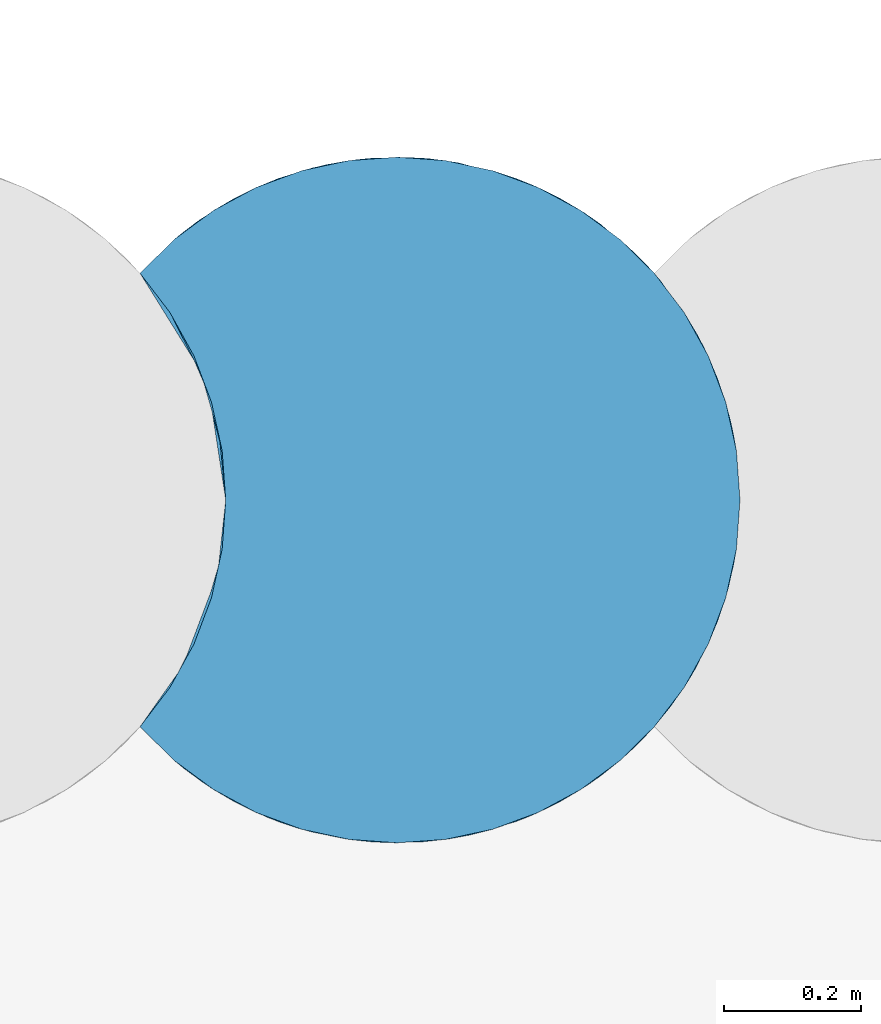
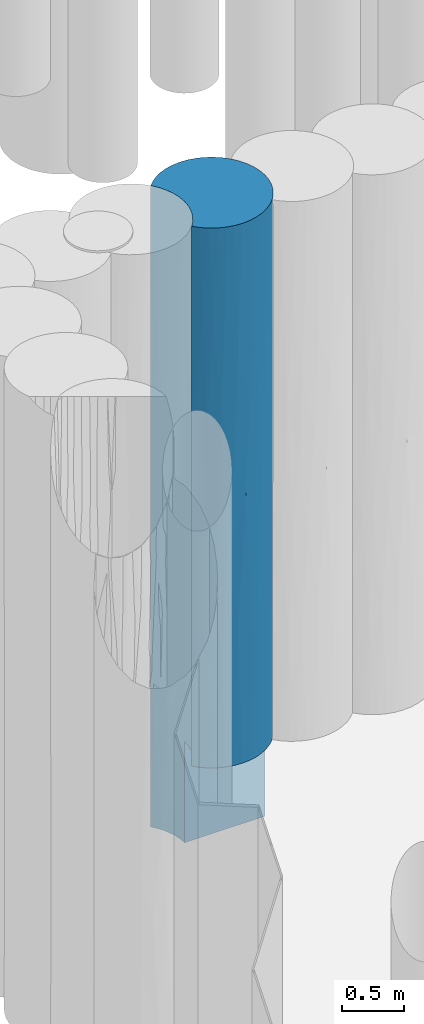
# One storey, part 82 of 104: 1 pile.
"""IFC2X3 building model written with IfcOpenShell, lengths in millimetres."""

import ifcopenshell
import ifcopenshell.guid

model = None  # the IFC model being written
_history = None  # IfcOwnerHistory: only IFC2X3 demands one
_inside = {}  # id of a spatial element -> (the spatial element, [elements in it])
_under = {}  # id of a project, library or spatial element -> (it, [spatial elements below it])
_declared = {}  # id of a project -> (the project, [libraries it declares])
_typed = {}  # id of a type object -> (the type object, [elements of that type])
_made_of = {}  # id of a material, layer set ... -> (it, [elements and type objects made of it])


def new_model(schema):
    """Start an empty IFC model of exactly this schema.

    Asked for "IFC4X3", IfcOpenShell would pick the latest addendum, in which some entities
    have other attributes; the version numbers below select the first issue.
    IFC2X3 requires an IfcOwnerHistory on every rooted entity: one is made here for all.
    """
    global model, _history
    if schema == "IFC4X3":
        model = ifcopenshell.file(schema_version=(4, 3, 0, 0))
    else:
        model = ifcopenshell.file(schema=schema)
    _inside.clear()
    _under.clear()
    _declared.clear()
    _typed.clear()
    _made_of.clear()
    _history = None
    if model.schema == "IFC2X3":
        org = make("IfcOrganization", Name="unknown")
        user = make(
            "IfcPersonAndOrganization",
            ThePerson=make("IfcPerson", FamilyName="unknown"),
            TheOrganization=org,
        )
        app = make(
            "IfcApplication",
            ApplicationDeveloper=org,
            Version="unknown",
            ApplicationFullName="unknown",
            ApplicationIdentifier="unknown",
        )
        _history = make(
            "IfcOwnerHistory",
            OwningUser=user,
            OwningApplication=app,
            ChangeAction="ADDED",
            CreationDate=0,
        )
    return model


def make(cls, **values):
    """One entity of the class cls with the attributes given. An attribute that is None is left unset."""
    return model.create_entity(
        cls, **{name: value for name, value in values.items() if value is not None}
    )


def entity(cls, *values):
    """Any entity or typed value of the class cls, its attributes in the order of the schema. None: left unset."""
    e = model.create_entity(cls)
    for i, value in enumerate(values):
        if value is not None:
            e[i] = value
    return e


def rooted(cls, **values):
    """An entity with a GlobalId (a new one), such as an element, a storey or a relation."""
    return make(cls, GlobalId=ifcopenshell.guid.new(), OwnerHistory=_history, **values)


def si_unit(unit_type, name, prefix=None):
    """IfcSIUnit, for example si_unit("LENGTHUNIT", "METRE", prefix="MILLI")."""
    return make("IfcSIUnit", UnitType=unit_type, Prefix=prefix, Name=name)


def converted_unit(unit_type, name, factor, base, dimensions=None, offset=None):
    """IfcConversionBasedUnit, such as the inch: factor (a typed value) times the base unit."""
    return make(
        "IfcConversionBasedUnit"
        if offset is None
        else "IfcConversionBasedUnitWithOffset",
        ConversionOffset=offset,
        Dimensions=None
        if dimensions is None
        else entity("IfcDimensionalExponents", *dimensions),
        UnitType=unit_type,
        Name=name,
        ConversionFactor=make(
            "IfcMeasureWithUnit", ValueComponent=factor, UnitComponent=base
        ),
    )


def derived_unit(unit_type, elements):
    """IfcDerivedUnit: a product of units, each with its exponent."""
    return make(
        "IfcDerivedUnit",
        Elements=[
            make("IfcDerivedUnitElement", Unit=unit, Exponent=power)
            for unit, power in elements
        ],
        UnitType=unit_type,
    )


def assignment(units):
    """IfcUnitAssignment: the units of a project."""
    return None if units is None else make("IfcUnitAssignment", Units=units)


def point(xyz):
    """IfcCartesianPoint."""
    return None if xyz is None else make("IfcCartesianPoint", Coordinates=xyz)


def direction(xyz):
    """IfcDirection."""
    return None if xyz is None else make("IfcDirection", DirectionRatios=xyz)


def frame(location, z_axis=None, x_axis=None):
    """IfcAxis2Placement3D, a coordinate frame: its origin and axes. An axis left out is left unset."""
    return make(
        "IfcAxis2Placement3D",
        Location=point(location),
        Axis=direction(z_axis),
        RefDirection=direction(x_axis),
    )


def origin():
    """The frame at (0, 0, 0) with its axes left unset."""
    return frame((0.0, 0.0, 0.0))


def place(relative_to, where):
    """IfcLocalPlacement: puts the frame where relative to a parent placement (None: the world)."""
    return make(
        "IfcLocalPlacement", PlacementRelTo=relative_to, RelativePlacement=where
    )


def context(
    kind, dimensions, precision=None, world=None, true_north=None, identifier=None
):
    """IfcGeometricRepresentationContext, for example the 3D "Model" context."""
    return make(
        "IfcGeometricRepresentationContext",
        ContextIdentifier=identifier,
        ContextType=kind,
        CoordinateSpaceDimension=dimensions,
        Precision=precision,
        WorldCoordinateSystem=world,
        TrueNorth=true_north,
    )


def subcontext(parent, identifier, kind, view, scale=None):
    """IfcGeometricRepresentationSubContext, for example "Body" below "Model"."""
    return make(
        "IfcGeometricRepresentationSubContext",
        ContextIdentifier=identifier,
        ContextType=kind,
        ParentContext=parent,
        TargetScale=scale,
        TargetView=view,
    )


def project(units=None, contexts=None):
    """IfcProject with its units and contexts."""
    return rooted(
        "IfcProject",
        Name="project",
        RepresentationContexts=contexts,
        UnitsInContext=assignment(units),
    )


def spatial(cls, under=None, at=None, **own):
    """A site, building, storey or space (cls), placed at a placement, below another one or the project."""
    s = rooted(cls, ObjectPlacement=at, **own)
    if under is not None:
        _under.setdefault(under.id(), (under, []))[1].append(s)
    return s


def faces_of(points, faces, orient=None, outer=None):
    """IfcFace entities. A face is a list of loops; a loop is a list of indices into points, from 0.

    orient and outer hold one flag for each loop. By default every Orientation is true, the
    first loop of a face is its IfcFaceOuterBound and the others are IfcFaceBound.
    """
    made = []
    for i, loops in enumerate(faces):
        bounds = []
        for j, loop in enumerate(loops):
            is_outer = j == 0 if outer is None else outer[i][j]
            bounds.append(
                make(
                    "IfcFaceOuterBound" if is_outer else "IfcFaceBound",
                    Bound=make("IfcPolyLoop", Polygon=[points[k] for k in loop]),
                    Orientation=True if orient is None else orient[i][j],
                )
            )
        made.append(make("IfcFace", Bounds=bounds))
    return made


def faceted_brep(points, faces, orient=None, outer=None, voids=None):
    """IfcFacetedBrep: a solid bounded by flat faces; with voids (closed shells), ...WithVoids."""
    shared = [point(p) for p in points]
    hull = make("IfcClosedShell", CfsFaces=faces_of(shared, faces, orient, outer))
    if voids is None:
        return make("IfcFacetedBrep", Outer=hull)
    return make(
        "IfcFacetedBrepWithVoids",
        Outer=hull,
        Voids=[
            make(cls, CfsFaces=faces_of(shared, fs, o, b)) for cls, fs, o, b in voids
        ],
    )


def shape(context_of_items, identifier, shape_type, items):
    """IfcShapeRepresentation: the items that make up one representation, for example the "Body"."""
    return make(
        "IfcShapeRepresentation",
        ContextOfItems=context_of_items,
        RepresentationIdentifier=identifier,
        RepresentationType=shape_type,
        Items=items,
    )


def source(mapping_origin, context_of_items, identifier, shape_type, items):
    """IfcRepresentationMap: a shape defined once, which mapped items show again and again."""
    return make(
        "IfcRepresentationMap",
        MappingOrigin=mapping_origin,
        MappedRepresentation=shape(context_of_items, identifier, shape_type, items),
    )


def transform(
    local_origin,
    x_axis=None,
    y_axis=None,
    z_axis=None,
    scale=None,
    scale2=None,
    scale3=None,
    uniform=True,
):
    """IfcCartesianTransformationOperator3D, or its non-uniform kind. x_axis, y_axis, z_axis: its Axis1, 2, 3."""
    if uniform:
        return make(
            "IfcCartesianTransformationOperator3D",
            Axis1=direction(x_axis),
            Axis2=direction(y_axis),
            LocalOrigin=point(local_origin),
            Scale=scale,
            Axis3=direction(z_axis),
        )
    return make(
        "IfcCartesianTransformationOperator3DnonUniform",
        Axis1=direction(x_axis),
        Axis2=direction(y_axis),
        LocalOrigin=point(local_origin),
        Scale=scale,
        Axis3=direction(z_axis),
        Scale2=scale2,
        Scale3=scale3,
    )


def mapped(mapping_source, mapping_target):
    """IfcMappedItem: shows the shape of a source again, moved by a transform."""
    return make(
        "IfcMappedItem", MappingSource=mapping_source, MappingTarget=mapping_target
    )


def material(Name=None, Category=None):
    """IfcMaterial."""
    return make("IfcMaterial", Name=Name, Category=Category)


def made_of(thing, what):
    """Note that an element or type object is made of a material, layer set ...; save() writes the relation."""
    if what is not None:
        _made_of.setdefault(what.id(), (what, []))[1].append(thing)
    return thing


def element(
    cls,
    number,
    at=None,
    inside=None,
    cuts=None,
    type_object=None,
    material=None,
    context=None,
    identifier="Body",
    shape_type=None,
    held_by="IfcProductDefinitionShape",
    body=None,
    shapes=None,
    **own,
):
    """One element of the class cls, such as IfcWall. Its Tag is "e" and its number.

    at: its placement. inside: the storey or other place that contains it. cuts: it is an
    opening in that element (IfcRelVoidsElement). A single representation is given by context,
    identifier, shape_type and body (its items); several are given by shapes. held_by: the class
    of the entity that holds the representations. save() writes the other relations.
    """
    e = rooted(cls, Tag="e%d" % number, ObjectPlacement=at, **own)
    if body is not None:
        shapes = [shape(context, identifier, shape_type, body)]
    if shapes is not None:
        e.Representation = make(held_by, Representations=shapes)
    if inside is not None:
        _inside.setdefault(inside.id(), (inside, []))[1].append(e)
    if cuts is not None:
        rooted(
            "IfcRelVoidsElement", RelatingBuildingElement=cuts, RelatedOpeningElement=e
        )
    if type_object is not None:
        _typed.setdefault(type_object.id(), (type_object, []))[1].append(e)
    return made_of(e, material)


def aggregate(whole, parts):
    """IfcRelAggregates: a whole, such as a stair, and the parts it consists of."""
    return rooted("IfcRelAggregates", RelatingObject=whole, RelatedObjects=parts)


def save(model, path):
    """Write the relations noted so far, then the file.

    IfcRelAggregates (storeys below a building ...), IfcRelContainedInSpatialStructure (elements
    in a storey), IfcRelDefinesByType, IfcRelAssociatesMaterial and IfcRelDeclares: one each for
    every whole, place, type object, material and project.
    """
    for whole, parts in _under.values():
        aggregate(whole, parts)
    for where, things in _inside.values():
        rooted(
            "IfcRelContainedInSpatialStructure",
            RelatedElements=things,
            RelatingStructure=where,
        )
    for kind, things in _typed.values():
        rooted("IfcRelDefinesByType", RelatedObjects=things, RelatingType=kind)
    for what, things in _made_of.values():
        rooted("IfcRelAssociatesMaterial", RelatedObjects=things, RelatingMaterial=what)
    for by, libraries in _declared.values():
        rooted("IfcRelDeclares", RelatingContext=by, RelatedDefinitions=libraries)
    model.write(path)


model = new_model("IFC2X3")

# Units and contexts
model_context = context("Model", 3, precision=0.01, world=origin(), true_north=direction((6.12303176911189e-17, 1.0)))
body_context = subcontext(model_context, "Body", "Model", "MODEL_VIEW")
ifc_project = project(units=[si_unit("LENGTHUNIT", "METRE", prefix="MILLI"), si_unit("AREAUNIT", "SQUARE_METRE", prefix="MILLI"), si_unit("VOLUMEUNIT", "CUBIC_METRE"), converted_unit("PLANEANGLEUNIT", "DEGREE", entity("IfcRatioMeasure", 0.0174532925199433), si_unit("PLANEANGLEUNIT", "RADIAN"), dimensions=[0, 0, 0, 0, 0, 0, 0]), si_unit("MASSUNIT", "GRAM", prefix="KILO"), derived_unit("MASSDENSITYUNIT", [(si_unit("MASSUNIT", "GRAM", prefix="KILO"), 1), (si_unit("LENGTHUNIT", "METRE"), -3)]), derived_unit("MOMENTOFINERTIAUNIT", [(si_unit("LENGTHUNIT", "METRE"), 4)]), si_unit("TIMEUNIT", "SECOND"), si_unit("FREQUENCYUNIT", "HERTZ"), si_unit("THERMODYNAMICTEMPERATUREUNIT", "DEGREE_CELSIUS"), derived_unit("THERMALTRANSMITTANCEUNIT", [(si_unit("MASSUNIT", "GRAM", prefix="KILO"), 1), (si_unit("THERMODYNAMICTEMPERATUREUNIT", "KELVIN"), -1), (si_unit("TIMEUNIT", "SECOND"), -3)]), derived_unit("VOLUMETRICFLOWRATEUNIT", [(si_unit("LENGTHUNIT", "METRE"), 3), (si_unit("TIMEUNIT", "SECOND"), -1)]), si_unit("ELECTRICCURRENTUNIT", "AMPERE"), si_unit("ELECTRICVOLTAGEUNIT", "VOLT"), si_unit("POWERUNIT", "WATT"), si_unit("FORCEUNIT", "NEWTON", prefix="KILO"), si_unit("ILLUMINANCEUNIT", "LUX"), si_unit("LUMINOUSFLUXUNIT", "LUMEN"), si_unit("LUMINOUSINTENSITYUNIT", "CANDELA"), derived_unit("USERDEFINED", [(si_unit("MASSUNIT", "GRAM", prefix="KILO"), -1), (si_unit("LENGTHUNIT", "METRE"), -2), (si_unit("TIMEUNIT", "SECOND"), 3), (si_unit("LUMINOUSFLUXUNIT", "LUMEN"), 1)]), derived_unit("LINEARVELOCITYUNIT", [(si_unit("LENGTHUNIT", "METRE"), 1), (si_unit("TIMEUNIT", "SECOND"), -1)]), si_unit("PRESSUREUNIT", "PASCAL"), derived_unit("USERDEFINED", [(si_unit("LENGTHUNIT", "METRE"), -2), (si_unit("MASSUNIT", "GRAM", prefix="KILO"), 1), (si_unit("TIMEUNIT", "SECOND"), -2)]), derived_unit("LINEARFORCEUNIT", [(si_unit("MASSUNIT", "GRAM", prefix="KILO"), 1), (si_unit("LENGTHUNIT", "METRE"), 1), (si_unit("TIMEUNIT", "SECOND"), -2), (si_unit("LENGTHUNIT", "METRE"), -1)]), derived_unit("PLANARFORCEUNIT", [(si_unit("MASSUNIT", "GRAM", prefix="KILO"), 1), (si_unit("LENGTHUNIT", "METRE"), 1), (si_unit("TIMEUNIT", "SECOND"), -2), (si_unit("LENGTHUNIT", "METRE"), -2)])], contexts=[model_context])

# Site, building, storey
site_placement = place(None, origin())
site = spatial("IfcSite", under=ifc_project, at=site_placement, Name="Theater aan de Parade", CompositionType="ELEMENT")
building_placement = place(site_placement, origin())
building = spatial("IfcBuilding", under=site, at=building_placement, Name="Theater aan de Parade", CompositionType="ELEMENT")
storey_placement = place(building_placement, frame((0.0, 0.0, -5520.0)))
storey = spatial("IfcBuildingStorey", under=building, at=storey_placement, Name="-2 kelder", CompositionType="ELEMENT", Elevation=-5520.0)

# Pile
ifc_material = material(Name="00_PBT_MAT_grout")
shared_shape = source(origin(), body_context, "Body", "Brep", [
    faceted_brep([(447.024567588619, 996.610134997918, 0.0), (516.050365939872, 981.753867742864, 0.0), (582.295809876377, 957.322481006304, 0.0), (644.440261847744, 923.802640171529, 0.0), (701.244632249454, 881.862011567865, 0.0), (751.564698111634, 832.344511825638, 0.0), (795.307447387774, 774.871898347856, 0.0), (830.3061049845, 711.705910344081, 0.0), (855.841245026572, 644.155075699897, 0.0), (871.379164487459, 573.629291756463, 0.0), (876.595272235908, 501.595272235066, 0.0), (126.595272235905, 501.595272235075, 0.0), (121.380912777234, 573.617282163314, 0.0), (105.846592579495, 644.137097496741, 0.0), (80.3163177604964, 711.683855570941, 0.0), (45.3225844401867, 774.848704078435, 0.0), (1.59527223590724, 832.314186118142, 0.0), (51.9353252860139, 881.852972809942, 0.0), (108.741467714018, 923.797047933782, 0.0), (170.888616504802, 957.319719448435, 0.0), (237.136331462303, 981.75275040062, 0.0), (306.163620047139, 996.609799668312, 0.0), (376.594352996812, 1001.59527223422, 0.0), (794.756123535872, 775.714776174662, 1228.81272915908), (549.604882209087, 970.708984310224, 4489.81932615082), (520.051793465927, 980.573587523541, 5382.91341902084), (613.960467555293, 941.660908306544, 5318.51941458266), (876.595272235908, 501.595272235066, 1000.0), (871.379164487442, 573.629291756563, 6320.0), (876.595272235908, 501.59527223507, 6320.0), (876.595272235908, 501.595272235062, 5539.2311470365), (876.595272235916, 501.59527223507, 4758.46227378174), (520.051793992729, 980.573587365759, 937.086578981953), (844.294832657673, 678.392108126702, 1164.3633246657), (271.387390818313, 990.401268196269, 1001.48399115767), (613.960468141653, 941.660907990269, 1001.48058281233), (465.503122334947, 993.627175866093, 3572.95728768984), (591.95749686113, 952.837016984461, 2592.25031757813), (425.191522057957, 999.228073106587, 2413.69991540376), (51.9353254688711, 881.85297296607, 6320.0), (108.741467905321, 923.797048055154, 6320.0), (62.3331531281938, 890.490271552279, 5148.84671821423), (727.290636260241, 857.983770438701, 1464.86322289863), (813.948631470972, 743.92157944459, 2176.75510940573), (411.897565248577, 1000.34746331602, 1347.03164863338), (170.419670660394, 957.107754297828, 3160.0), (89.8360826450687, 911.191618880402, 2088.29114741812), (79.5245862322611, 903.775589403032, 3056.90562258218), (844.294831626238, 678.39211085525, 4334.71686722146), (813.948631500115, 743.921579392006, 5244.04250825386), (856.701469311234, 641.230652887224, 5294.90075363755), (317.324708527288, 998.069843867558, 2005.67899400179), (139.222527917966, 941.65683639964, 5318.51289021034), (271.387391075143, 990.401268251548, 5318.5160089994), (203.580632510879, 970.707129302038, 4489.8213672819), (855.841245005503, 644.155075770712, 6320.0), (830.306104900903, 711.705910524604, 6320.0), (411.897565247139, 1000.34746331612, 4972.96835150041), (376.594352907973, 1001.59527223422, 6320.0), (447.024567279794, 996.610135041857, 6320.0), (876.595272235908, 501.595272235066, 2098.46227378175), (869.333230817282, 586.502893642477, 1549.23112851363), (646.439422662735, 922.52773057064, 4378.31323819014), (861.144910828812, 624.930781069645, 2647.6933898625), (139.222527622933, 941.656836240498, 1001.48711016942), (795.307447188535, 774.871898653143, 6320.0), (576.321270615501, 959.972328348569, 3449.19162586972), (751.585178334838, 832.325631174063, 6320.0), (727.290636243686, 857.983770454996, 5537.32646657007), (701.244631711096, 881.862012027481, 6320.0), (203.580632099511, 970.707129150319, 1830.17863376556), (644.44026119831, 923.80264058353, 6320.0), (341.290873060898, 1000.34731423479, 3160.0), (253.934917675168, 986.316261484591, 2717.65300360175), (650.019734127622, 920.21092368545, 1972.39054739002), (549.604882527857, 970.70898419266, 1830.18066998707), (62.3331529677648, 890.490271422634, 1171.15328050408), (876.595272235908, 501.595272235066, 3196.92454756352), (876.595272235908, 501.595272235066, 2561.5377059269), (793.00101597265, 778.373625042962, 4276.18344993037), (864.687323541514, 610.067155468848, 3612.80310461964), (727.290635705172, 857.983770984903, 4689.9541594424), (1.59527223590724, 832.314186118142, 5539.23141195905), (1.59527223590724, 832.314186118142, 4758.45763153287), (1.59527223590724, 832.314186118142, 780.768588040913), (1.59527223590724, 832.314186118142, 1561.53717608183), (582.295809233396, 957.32248129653, 6320.0), (516.050365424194, 981.753867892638, 6320.0), (1.59527223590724, 832.314186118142, 6320.0), (170.888616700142, 957.319719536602, 6320.0), (760.967406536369, 821.373417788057, 2912.00306888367), (306.163620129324, 996.609799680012, 6320.0), (237.136331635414, 981.752750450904, 6320.0), (317.324708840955, 998.069843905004, 4314.32100595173), (824.270181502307, 724.277053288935, 3295.17429052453), (740.362063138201, 844.631308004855, 3786.33735840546), (89.8360828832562, 911.191619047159, 4231.70885066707), (1.5952722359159, 832.314186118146, 2342.30657834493), (1.59527223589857, 832.314186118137, 3123.07435216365), (1.59527223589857, 832.314186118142, 3940.76599184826), (1.59527223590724, 832.314186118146, 4721.53800578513), (868.31868141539, 592.193775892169, 4573.56444361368), (673.583725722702, 903.836317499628, 3160.0), (876.595272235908, 501.595272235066, 4123.07541185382), (1.5952722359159, 832.314186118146, 3922.30672178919), (203.582286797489, 32.4828050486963, 2063.74645387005), (104.799222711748, 81.9205083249, 2017.24056259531), (170.888936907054, 45.8706803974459, 1000.0), (306.169463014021, 6.57991348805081, 1000.0), (237.139379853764, 21.4369086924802, 1000.0), (108.739323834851, 79.3948566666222, 1000.0), (844.298622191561, 324.808461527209, 1964.84509720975), (855.843884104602, 359.044340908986, 1000.0), (871.380005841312, 429.567032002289, 1000.0), (51.9315440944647, 121.340800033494, 1000.0), (249.149636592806, 18.1104121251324, 3064.60351294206), (341.298032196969, 2.84272352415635, 2389.43952600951), (481.811471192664, 12.7910665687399, 1910.77219920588), (447.035194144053, 6.58192150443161, 1000.0), (516.062532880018, 21.4402106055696, 1000.0), (795.307447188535, 228.318645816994, 6320.0), (804.969430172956, 243.727901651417, 5501.66350533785), (830.306104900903, 291.484633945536, 6320.0), (376.602802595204, 1.59527229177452, 1000.0), (727.301618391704, 145.217581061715, 3659.99144225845), (673.596082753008, 99.363350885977, 2270.79748972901), (774.493590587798, 198.813290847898, 2390.35009709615), (481.80003106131, 12.7886041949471, 5409.25641590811), (453.100427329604, 7.48297604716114, 4513.69340896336), (549.604883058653, 32.4815604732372, 4692.84905904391), (226.910865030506, 24.5265368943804, 5446.00106667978), (237.136331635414, 21.4377940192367, 6320.0), (170.888616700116, 45.8708249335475, 6320.0), (203.580632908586, 32.4834150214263, 4596.17974534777), (186.509828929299, 39.1371398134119, 3719.1308989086), (302.739707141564, 7.07999895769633, 3999.49399943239), (567.354968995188, 39.4148549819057, 1816.1274248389), (549.617476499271, 32.4862051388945, 2627.20563650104), (582.308728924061, 45.8738949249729, 1000.0), (613.960468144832, 61.5296364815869, 5409.25483365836), (139.222528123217, 61.5337079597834, 5366.36140196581), (94.9848091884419, 88.4420959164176, 4306.20718492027), (66.1639001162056, 109.635627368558, 5518.62855545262), (1.59527223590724, 170.876358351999, 3342.30506081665), (1.5952722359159, 170.876358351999, 4123.07341442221), (701.244631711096, 121.328532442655, 6320.0), (727.290636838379, 145.206774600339, 5009.81933080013), (751.585178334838, 170.864913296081, 6320.0), (51.9353254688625, 121.337571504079, 6320.0), (1.59527223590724, 170.876358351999, 6320.0), (1.59527223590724, 170.876358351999, 5539.23164639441), (108.741467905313, 79.3934964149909, 6320.0), (830.311221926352, 291.49568395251, 1000.0), (306.163620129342, 6.58074479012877, 6320.0), (868.398757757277, 411.432465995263, 5503.47129762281), (859.976701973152, 373.757901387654, 4296.85621176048), (376.594352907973, 1.5952722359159, 6320.0), (341.290874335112, 2.8432301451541, 4999.47557712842), (751.595272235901, 170.87635835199, 1000.0), (795.315189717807, 228.330509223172, 1000.0), (516.050365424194, 21.4366765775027, 6320.0), (447.024567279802, 6.58040942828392, 6320.0), (844.29862220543, 324.808461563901, 2985.23218810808), (453.112845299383, 7.48489892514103, 2806.34173780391), (1.59527223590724, 170.876358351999, 2561.5367072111), (1.5952722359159, 170.876358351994, 1780.7688531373), (1.59527223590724, 170.876358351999, 1000.0), (644.453065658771, 79.3960272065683, 1000.0), (701.256460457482, 121.33863144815, 1000.0), (644.440261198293, 79.3879038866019, 6320.0), (868.741967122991, 413.325058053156, 3421.75623803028), (411.907133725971, 2.84375851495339, 3659.99398159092), (801.333356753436, 237.781778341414, 3614.51908154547), (866.89834836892, 403.600917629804, 2475.03864258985), (139.221565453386, 61.5342272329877, 2966.67369440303), (855.841245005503, 359.035468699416, 6320.0), (844.294832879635, 324.798436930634, 5400.40783371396), (577.1715610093, 43.589647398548, 3660.04365239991), (656.87991123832, 87.5415062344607, 3205.14514333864), (651.229971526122, 83.7726041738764, 4395.20285150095), (582.295809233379, 45.868063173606, 6320.0), (813.94863232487, 259.26896656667, 4682.88089299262), (871.379164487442, 429.561252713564, 6320.0), (61.5885442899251, 113.303163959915, 2951.9221345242), (1.5952722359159, 170.876358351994, 3196.92458745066), (1.59527223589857, 170.876358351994, 4758.46229372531), (121.380912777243, 573.617282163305, 6320.0), (126.595272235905, 501.595272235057, 6320.0), (121.380912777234, 429.573262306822, 6320.0), (105.846592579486, 359.05344697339, 6320.0), (80.3163177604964, 291.506688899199, 6320.0), (45.3225844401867, 228.341840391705, 6320.0), (45.3225844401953, 774.848704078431, 6320.0), (80.3163177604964, 711.683855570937, 6320.0), (105.846592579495, 644.137097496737, 6320.0), (126.595272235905, 501.59527223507, 1000.0), (126.595272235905, 501.595272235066, 4758.46227344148), (126.595272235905, 501.595272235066, 5539.23114702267), (103.716989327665, 651.110713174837, 929.570302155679), (117.506504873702, 596.496071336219, 2931.36424013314), (119.581500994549, 585.049320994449, 1600.95905710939), (126.595272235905, 501.595272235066, 2098.46227344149), (63.9612327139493, 743.898835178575, 1002.25156593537), (57.034257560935, 756.001010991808, 3976.06843691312), (59.0094113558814, 752.629158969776, 4844.99935350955), (94.3024450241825, 678.371969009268, 5355.17937068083), (52.6084708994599, 763.344684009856, 1951.92213360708), (94.3024450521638, 678.371968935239, 1823.06883573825), (89.4529642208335, 690.705708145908, 3078.94407721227), (119.45154693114, 585.813396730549, 3842.56157073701), (94.3024444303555, 678.371970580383, 4334.81933337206), (116.899441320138, 599.584158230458, 4844.99935891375), (126.595272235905, 501.595272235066, 3196.92454688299), (126.595272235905, 501.595272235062, 4123.07541190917), (126.595272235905, 501.595272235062, 2561.53770595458), (114.888484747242, 394.032552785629, 5404.38906559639), (63.9612331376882, 259.291710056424, 5404.38906552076), (52.4390141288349, 239.570259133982, 2802.0358188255), (63.9612331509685, 259.291710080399, 1947.59403560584), (94.3024456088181, 324.81857700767, 2700.69910324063), (114.88848475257, 394.032552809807, 1947.59403553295), (80.3163177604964, 291.506688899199, 1000.0), (45.3225844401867, 228.341840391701, 1000.0), (119.327197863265, 416.652647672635, 4541.19743988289), (86.8326465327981, 306.194250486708, 3696.32218371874), (117.809113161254, 408.273450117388, 3449.75323103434), (105.846592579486, 359.05344697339, 1000.0), (121.380912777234, 429.573262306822, 1000.0), (94.3024455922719, 324.818576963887, 4691.94526432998), (54.0384103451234, 242.18755514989, 4333.70688615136)], [[[0, 1, 2, 3, 4, 5, 6, 7, 8, 9, 10, 11, 12, 13, 14, 15, 16, 17, 18, 19, 20, 21, 22]], [[7, 6, 23]], [[24, 25, 26]], [[10, 9, 27]], [[28, 29, 30, 31]], [[1, 32, 2]], [[33, 9, 8]], [[19, 34, 20]], [[3, 2, 35]], [[36, 37, 38]], [[39, 40, 41]], [[42, 43, 23]], [[23, 43, 33]], [[42, 5, 4]], [[32, 35, 2]], [[32, 0, 44]], [[45, 46, 47]], [[5, 42, 23]], [[8, 7, 33]], [[48, 49, 50]], [[51, 44, 34]], [[52, 53, 54]], [[55, 50, 56]], [[57, 58, 59]], [[60, 27, 61]], [[24, 26, 62]], [[56, 50, 49]], [[63, 33, 43]], [[64, 19, 18]], [[49, 65, 56]], [[66, 37, 36]], [[67, 68, 69]], [[34, 64, 70]], [[68, 26, 71]], [[72, 51, 73]], [[35, 74, 42]], [[74, 35, 75]], [[75, 35, 32]], [[68, 71, 69]], [[20, 34, 21]], [[4, 35, 42]], [[76, 18, 17]], [[63, 77, 78, 60]], [[31, 50, 28]], [[79, 49, 48]], [[33, 61, 9]], [[4, 3, 35]], [[64, 34, 19]], [[77, 63, 80]], [[49, 81, 68]], [[82, 41, 83]], [[76, 84, 85]], [[68, 65, 49]], [[26, 86, 71]], [[86, 26, 25]], [[86, 25, 87]], [[88, 39, 82]], [[17, 16, 84]], [[89, 52, 40]], [[25, 59, 87]], [[81, 49, 79]], [[42, 74, 90]], [[53, 58, 57]], [[91, 53, 92]], [[70, 64, 46]], [[36, 57, 24]], [[38, 44, 51]], [[53, 89, 92]], [[22, 21, 34]], [[52, 89, 53]], [[53, 93, 54]], [[22, 44, 0]], [[62, 26, 81]], [[94, 95, 79]], [[51, 34, 70]], [[22, 34, 44]], [[76, 17, 84]], [[76, 46, 64]], [[58, 53, 91]], [[93, 53, 57]], [[96, 52, 54]], [[41, 40, 52]], [[68, 67, 65]], [[26, 68, 81]], [[46, 85, 97, 98]], [[96, 99, 100, 83]], [[46, 98, 47]], [[96, 54, 45]], [[47, 99, 96]], [[45, 54, 93]], [[46, 45, 70]], [[48, 101, 80]], [[63, 60, 61]], [[63, 43, 94]], [[73, 70, 45]], [[38, 51, 72]], [[36, 93, 57]], [[93, 72, 73]], [[37, 74, 75]], [[90, 74, 102]], [[36, 38, 72]], [[75, 44, 38]], [[36, 72, 93]], [[36, 24, 66]], [[95, 62, 81]], [[66, 62, 102]], [[48, 94, 79]], [[90, 95, 94]], [[94, 48, 80]], [[90, 94, 43]], [[42, 90, 43]], [[95, 81, 79]], [[28, 50, 55]], [[101, 48, 50]], [[0, 32, 1]], [[44, 75, 32]], [[24, 57, 25]], [[59, 25, 57]], [[90, 102, 95]], [[62, 95, 102]], [[62, 66, 24]], [[102, 74, 37]], [[9, 61, 27]], [[63, 61, 33]], [[7, 23, 33]], [[5, 23, 6]], [[50, 31, 101]], [[80, 31, 103, 77]], [[80, 101, 31]], [[94, 80, 63]], [[38, 37, 75]], [[102, 37, 66]], [[46, 76, 85]], [[76, 64, 18]], [[41, 96, 83]], [[39, 41, 82]], [[96, 41, 52]], [[96, 45, 47]], [[47, 98, 104, 99]], [[70, 73, 51]], [[93, 73, 45]], [[105, 106, 107]], [[108, 105, 109]], [[106, 110, 107]], [[111, 112, 113]], [[114, 110, 106]], [[115, 105, 116]], [[117, 118, 119]], [[120, 121, 122]], [[123, 118, 117]], [[124, 125, 126]], [[127, 128, 129]], [[130, 131, 132]], [[116, 108, 123]], [[133, 134, 135]], [[136, 137, 117]], [[136, 117, 119]], [[108, 116, 105]], [[136, 119, 138]], [[139, 127, 129]], [[130, 140, 133]], [[141, 140, 142]], [[143, 141, 144]], [[145, 146, 147]], [[148, 149, 150]], [[142, 148, 150]], [[132, 151, 140]], [[132, 140, 130]], [[112, 111, 152]], [[130, 153, 131]], [[154, 155, 103]], [[127, 156, 157]], [[158, 159, 126]], [[127, 160, 161]], [[126, 111, 162]], [[163, 116, 117]], [[114, 164, 165, 166]], [[125, 167, 168]], [[145, 169, 139]], [[158, 126, 125]], [[170, 155, 162]], [[113, 27, 60, 78]], [[128, 135, 171]], [[105, 107, 109]], [[172, 126, 162]], [[111, 159, 152]], [[162, 111, 173]], [[126, 159, 111]], [[106, 105, 174]], [[140, 141, 133]], [[175, 122, 176]], [[177, 178, 179]], [[160, 127, 180]], [[157, 156, 153]], [[139, 180, 127]], [[180, 139, 169]], [[115, 174, 105]], [[178, 125, 124]], [[121, 146, 181]], [[146, 121, 147]], [[173, 113, 78]], [[124, 172, 181]], [[146, 139, 179]], [[176, 121, 181]], [[171, 163, 177]], [[154, 175, 176]], [[136, 167, 125]], [[154, 103, 31, 30]], [[158, 125, 168]], [[181, 146, 124]], [[30, 29, 182]], [[142, 151, 148]], [[142, 144, 141]], [[163, 117, 137]], [[123, 117, 116]], [[156, 127, 161]], [[157, 135, 128]], [[179, 139, 129]], [[145, 139, 146]], [[176, 181, 155]], [[182, 154, 30]], [[172, 155, 181]], [[170, 162, 173]], [[183, 143, 184, 164]], [[134, 141, 174]], [[177, 179, 129]], [[124, 146, 179]], [[171, 115, 116]], [[134, 174, 115]], [[177, 129, 128]], [[178, 137, 125]], [[177, 163, 137]], [[116, 163, 171]], [[157, 128, 127]], [[177, 128, 171]], [[106, 174, 183]], [[114, 106, 164]], [[113, 173, 111]], [[170, 78, 77, 103]], [[78, 170, 173]], [[103, 155, 170]], [[133, 157, 130]], [[153, 130, 157]], [[143, 183, 141]], [[106, 183, 164]], [[141, 183, 174]], [[167, 136, 138]], [[125, 137, 136]], [[122, 121, 176]], [[121, 120, 147]], [[135, 134, 115]], [[141, 134, 133]], [[175, 154, 182]], [[155, 154, 176]], [[142, 150, 185, 144]], [[151, 142, 140]], [[126, 172, 124]], [[155, 172, 162]], [[133, 135, 157]], [[115, 171, 135]], [[179, 178, 124]], [[137, 178, 177]], [[186, 187, 188, 189, 190, 191, 149, 148, 151, 132, 131, 153, 156, 161, 160, 180, 169, 145, 147, 120, 122, 175, 182, 29, 28, 55, 56, 65, 67, 69, 71, 86, 87, 59, 58, 91, 92, 89, 40, 39, 88, 192, 193, 194]], [[195, 12, 11]], [[186, 196, 197, 187]], [[14, 13, 198]], [[199, 200, 201]], [[15, 202, 16]], [[100, 203, 204]], [[205, 194, 193]], [[14, 202, 15]], [[198, 13, 12]], [[206, 207, 208]], [[209, 210, 208]], [[193, 192, 205]], [[204, 205, 192]], [[196, 186, 211]], [[198, 202, 14]], [[207, 202, 198]], [[209, 211, 210]], [[211, 205, 210]], [[212, 209, 199]], [[202, 85, 84, 16]], [[186, 194, 205]], [[192, 88, 82, 83, 100]], [[210, 205, 204]], [[98, 97, 85, 206]], [[205, 211, 186]], [[209, 212, 213, 196]], [[211, 209, 196]], [[208, 199, 209]], [[210, 204, 203]], [[195, 200, 198]], [[199, 208, 207]], [[199, 201, 214, 212]], [[203, 100, 99, 104, 98]], [[100, 204, 192]], [[203, 208, 210]], [[208, 203, 98]], [[207, 198, 200]], [[195, 198, 12]], [[207, 200, 199]], [[201, 200, 195]], [[85, 202, 206]], [[98, 206, 208]], [[207, 206, 202]], [[189, 215, 216, 190]], [[188, 187, 197]], [[165, 217, 218]], [[219, 220, 218]], [[221, 222, 218]], [[223, 215, 197]], [[216, 185, 150, 149]], [[219, 224, 225]], [[214, 220, 225]], [[189, 188, 215]], [[221, 218, 220, 226]], [[227, 220, 195]], [[191, 190, 216]], [[226, 220, 227]], [[215, 228, 216]], [[225, 223, 213]], [[220, 214, 201, 195]], [[184, 229, 217]], [[225, 213, 212, 214]], [[165, 222, 166]], [[219, 218, 217]], [[218, 222, 165]], [[191, 216, 149]], [[185, 216, 229]], [[228, 215, 223]], [[215, 188, 197]], [[223, 225, 224]], [[223, 197, 196, 213]], [[228, 223, 224]], [[220, 219, 225]], [[228, 224, 229]], [[217, 229, 224]], [[228, 229, 216]], [[229, 184, 143, 144, 185]], [[219, 217, 224]], [[217, 165, 164, 184]], [[158, 168, 167, 138, 119, 118, 123, 108, 109, 107, 110, 114, 166, 222, 221, 226, 227, 195, 27, 113, 112, 152, 159]], [[195, 11, 10, 27]]]),
])
pile_placement = place(storey_placement, frame((75673.4047277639, 20202.3807468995, -3840.0)))
element("IfcPile", 1, at=pile_placement, inside=storey, material=ifc_material, Name="17_PBT_SFO_grondkering_rond:Ø1000 (grondkering)", ObjectType="17_PBT_SFO_grondkering_rond:Ø1000 (grondkering)", PredefinedType="NOTDEFINED", context=body_context, shape_type="MappedRepresentation", body=[
    mapped(shared_shape, transform((0.0, 0.0, 0.0), scale=1.0)),
])

save(model, "model.ifc")
